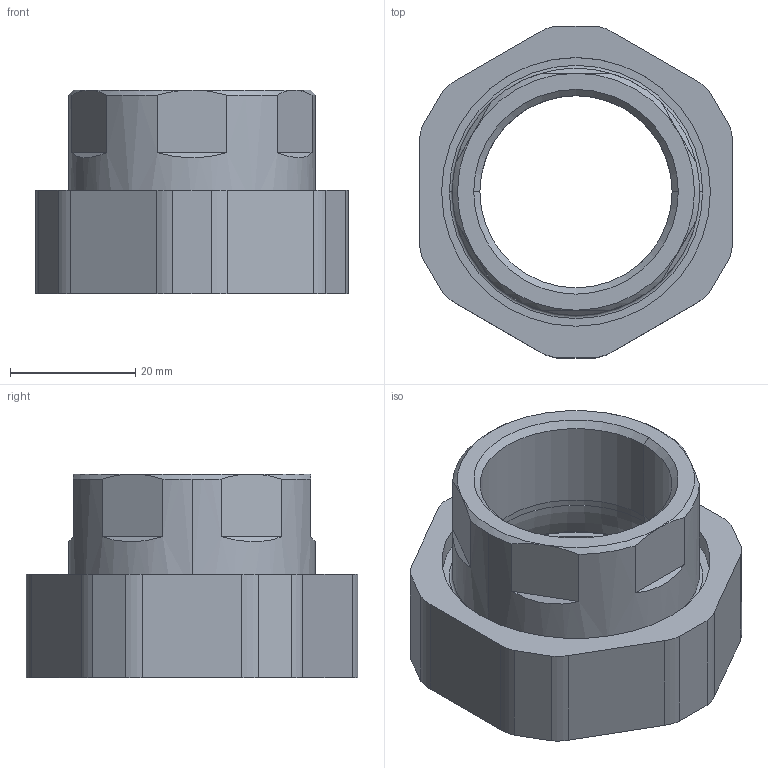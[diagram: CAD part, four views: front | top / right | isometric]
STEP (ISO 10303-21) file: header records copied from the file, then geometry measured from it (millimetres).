
FILE_DESCRIPTION((''),'2;1');
FILE_NAME('3-309-01-00205_1150001','2025-11-06T15:38:46',('Administrator'),(''),'CREO PARAMETRIC BY PTC INC, 2023424','CREO PARAMETRIC BY PTC INC, 2023424','');
FILE_SCHEMA(('CONFIG_CONTROL_DESIGN','SHAPE_APPEARANCE_LAYERS_GROUPS'));
Length unit declared in the file: millimetre
Products named in the file (1): 3-309-01-00205_1150001
Bounding box: 50 x 53 x 32.56 mm (x, y, z)
Volume: 8482.7 mm3; surface area: 18397.6 mm2
Topology: 1 solids, 5 shells, 81 faces, 200 edges, 129 vertices
Faces by surface type: plane 34, cylinder 30, cone 9, torus 8
Entity records: 2551 total; most frequent: CARTESIAN_POINT 512, DIRECTION 438, ORIENTED_EDGE 392, EDGE_CURVE 200, AXIS2_PLACEMENT_3D 175, VERTEX_POINT 129, CIRCLE 93, EDGE_LOOP 91
